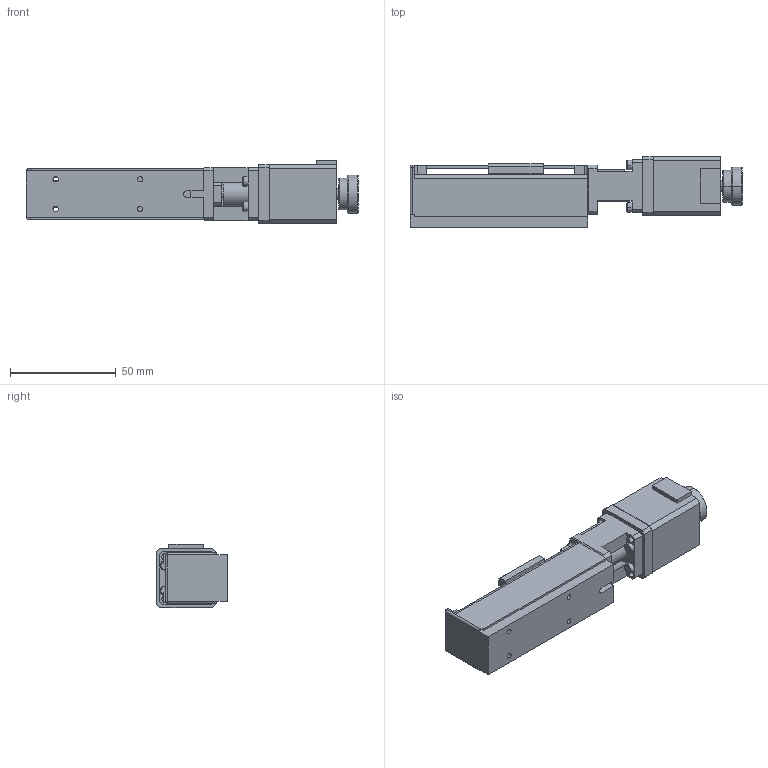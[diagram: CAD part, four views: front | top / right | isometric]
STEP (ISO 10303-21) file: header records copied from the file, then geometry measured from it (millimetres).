
FILE_DESCRIPTION (( 'STEP AP203' ), '1' );
FILE_NAME ('FAS-020-ER.STEP', '2015-08-25T04:55:50', ( '' ), ( '' ), 'SwSTEP 2.0', 'SolidWorks 2015', '' );
FILE_SCHEMA (( 'CONFIG_CONTROL_DESIGN' ));
Length unit declared in the file: millimetre
Products named in the file (1): FAS-020-ER
Bounding box: 157 x 33.5 x 30 mm (x, y, z)
Volume: 70823.1 mm3; surface area: 32690.4 mm2
Topology: 5 solids, 9 shells, 245 faces, 615 edges, 394 vertices
Faces by surface type: plane 147, cylinder 82, cone 14, sphere 2
Entity records: 7380 total; most frequent: CARTESIAN_POINT 1277, DIRECTION 1265, ORIENTED_EDGE 1226, EDGE_CURVE 613, LINE 437, VECTOR 437, AXIS2_PLACEMENT_3D 414, VERTEX_POINT 394
